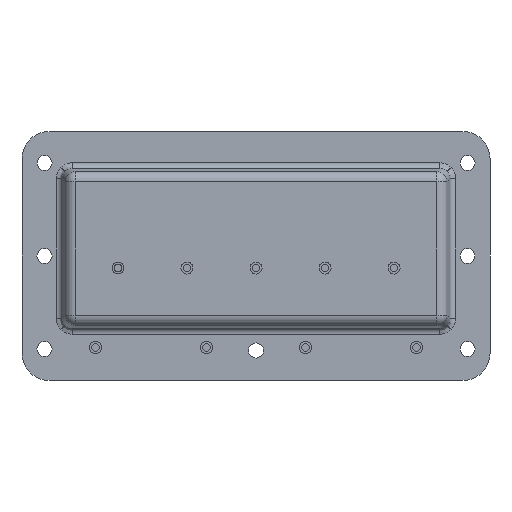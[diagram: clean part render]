
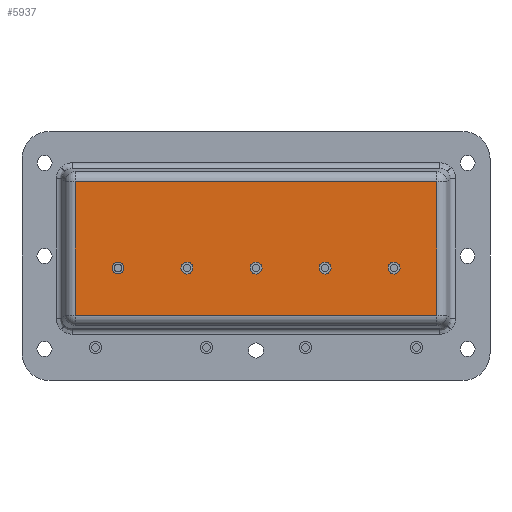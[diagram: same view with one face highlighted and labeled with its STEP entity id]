
A CAD part, front view. The second image highlights one B-rep face of the part: STEP entity #5937.
In plain terms, the highlighted planar face has unit normal (0, -1, 0).
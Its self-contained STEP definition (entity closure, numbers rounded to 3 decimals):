
#15 = DIRECTION ( 'NONE',  ( 0., 0., -1. ) ) ;
#32 = AXIS2_PLACEMENT_3D ( 'NONE', #5827, #312, #6747 ) ;
#203 = CARTESIAN_POINT ( 'NONE',  ( 46., -8., -4. ) ) ;
#262 = EDGE_CURVE ( 'NONE', #11695, #417, #6478, .T. ) ;
#312 = DIRECTION ( 'NONE',  ( 0., -1., 0. ) ) ;
#417 = VERTEX_POINT ( 'NONE', #4414 ) ;
#501 = CARTESIAN_POINT ( 'NONE',  ( -60.267, -8., 0. ) ) ;
#561 = VERTEX_POINT ( 'NONE', #4456 ) ;
#582 = DIRECTION ( 'NONE',  ( 0., 0., -1. ) ) ;
#593 = AXIS2_PLACEMENT_3D ( 'NONE', #203, #6638, #1124 ) ;
#651 = ORIENTED_EDGE ( 'NONE', *, *, #8531, .F. ) ;
#810 = CARTESIAN_POINT ( 'NONE',  ( 0., -8., -4. ) ) ;
#843 = CIRCLE ( 'NONE', #9642, 1.75 ) ;
#980 = VERTEX_POINT ( 'NONE', #10539 ) ;
#1022 = VERTEX_POINT ( 'NONE', #8109 ) ;
#1065 = VERTEX_POINT ( 'NONE', #5954 ) ;
#1124 = DIRECTION ( 'NONE',  ( 0., 0., -1. ) ) ;
#1332 = CIRCLE ( 'NONE', #2060, 1.75 ) ;
#1395 = LINE ( 'NONE', #9465, #11127 ) ;
#1419 = VECTOR ( 'NONE', #1680, 1000. ) ;
#1519 = EDGE_LOOP ( 'NONE', ( #651, #4855 ) ) ;
#1619 = CARTESIAN_POINT ( 'NONE',  ( 23., -8., -2.25 ) ) ;
#1680 = DIRECTION ( 'NONE',  ( -1., 0., 0. ) ) ;
#1729 = DIRECTION ( 'NONE',  ( 0., 0., -1. ) ) ;
#1809 = CARTESIAN_POINT ( 'NONE',  ( 0., -8., 0. ) ) ;
#1903 = AXIS2_PLACEMENT_3D ( 'NONE', #10932, #5502, #2780 ) ;
#1950 = VERTEX_POINT ( 'NONE', #7211 ) ;
#2017 = FACE_BOUND ( 'NONE', #10003, .T. ) ;
#2038 = EDGE_CURVE ( 'NONE', #11214, #1022, #6170, .T. ) ;
#2060 = AXIS2_PLACEMENT_3D ( 'NONE', #3536, #9942, #4465 ) ;
#2126 = DIRECTION ( 'NONE',  ( 0., -1., 0. ) ) ;
#2214 = CARTESIAN_POINT ( 'NONE',  ( 46., -8., -2.25 ) ) ;
#2226 = CARTESIAN_POINT ( 'NONE',  ( -46., -8., -2.25 ) ) ;
#2256 = EDGE_CURVE ( 'NONE', #417, #8613, #1395, .T. ) ;
#2692 = VERTEX_POINT ( 'NONE', #11218 ) ;
#2758 = DIRECTION ( 'NONE',  ( 0., 0., -1. ) ) ;
#2780 = DIRECTION ( 'NONE',  ( 0., 0., -1. ) ) ;
#2803 = VERTEX_POINT ( 'NONE', #2226 ) ;
#2901 = CARTESIAN_POINT ( 'NONE',  ( -23., -8., -5.75 ) ) ;
#2999 = AXIS2_PLACEMENT_3D ( 'NONE', #10946, #5512, #15 ) ;
#3058 = DIRECTION ( 'NONE',  ( 0., 0., 1. ) ) ;
#3277 = VERTEX_POINT ( 'NONE', #2214 ) ;
#3535 = AXIS2_PLACEMENT_3D ( 'NONE', #10065, #4611, #10969 ) ;
#3536 = CARTESIAN_POINT ( 'NONE',  ( -23., -8., -4. ) ) ;
#3558 = LINE ( 'NONE', #501, #4130 ) ;
#3566 = ORIENTED_EDGE ( 'NONE', *, *, #8127, .F. ) ;
#3929 = CIRCLE ( 'NONE', #9303, 1.75 ) ;
#4034 = VECTOR ( 'NONE', #6551, 1000. ) ;
#4124 = EDGE_CURVE ( 'NONE', #3277, #980, #5105, .T. ) ;
#4130 = VECTOR ( 'NONE', #582, 1000. ) ;
#4242 = EDGE_CURVE ( 'NONE', #2803, #1065, #3929, .T. ) ;
#4273 = VERTEX_POINT ( 'NONE', #2901 ) ;
#4414 = CARTESIAN_POINT ( 'NONE',  ( 60.267, -8., -19.767 ) ) ;
#4456 = CARTESIAN_POINT ( 'NONE',  ( 0., -8., -2.25 ) ) ;
#4465 = DIRECTION ( 'NONE',  ( 0., 0., -1. ) ) ;
#4487 = FACE_BOUND ( 'NONE', #1519, .T. ) ;
#4611 = DIRECTION ( 'NONE',  ( 0., -1., 0. ) ) ;
#4632 = DIRECTION ( 'NONE',  ( 0., -1., 0. ) ) ;
#4634 = EDGE_CURVE ( 'NONE', #4273, #1950, #1332, .T. ) ;
#4772 = DIRECTION ( 'NONE',  ( 0., -1., 0. ) ) ;
#4790 = FACE_BOUND ( 'NONE', #10570, .T. ) ;
#4799 = EDGE_CURVE ( 'NONE', #1065, #2803, #9363, .T. ) ;
#4855 = ORIENTED_EDGE ( 'NONE', *, *, #4634, .F. ) ;
#5012 = ORIENTED_EDGE ( 'NONE', *, *, #9432, .F. ) ;
#5105 = CIRCLE ( 'NONE', #1903, 1.75 ) ;
#5115 = ORIENTED_EDGE ( 'NONE', *, *, #262, .T. ) ;
#5265 = CARTESIAN_POINT ( 'NONE',  ( -60.267, -8., -19.767 ) ) ;
#5339 = CARTESIAN_POINT ( 'NONE',  ( 0., -8., 24.767 ) ) ;
#5502 = DIRECTION ( 'NONE',  ( 0., -1., 0. ) ) ;
#5507 = VERTEX_POINT ( 'NONE', #10507 ) ;
#5512 = DIRECTION ( 'NONE',  ( 0., -1., 0. ) ) ;
#5575 = ORIENTED_EDGE ( 'NONE', *, *, #10605, .T. ) ;
#5827 = CARTESIAN_POINT ( 'NONE',  ( -46., -8., -4. ) ) ;
#5862 = EDGE_LOOP ( 'NONE', ( #8902, #3566 ) ) ;
#5871 = ORIENTED_EDGE ( 'NONE', *, *, #10202, .F. ) ;
#5902 = ORIENTED_EDGE ( 'NONE', *, *, #4124, .F. ) ;
#5937 = ADVANCED_FACE ( 'NONE', ( #2017, #4790, #9347, #4487, #6934, #11476 ), #9079, .T. ) ;
#5954 = CARTESIAN_POINT ( 'NONE',  ( -46., -8., -5.75 ) ) ;
#6170 = CIRCLE ( 'NONE', #3535, 1.75 ) ;
#6201 = AXIS2_PLACEMENT_3D ( 'NONE', #1809, #10866, #2758 ) ;
#6287 = ORIENTED_EDGE ( 'NONE', *, *, #2038, .F. ) ;
#6330 = LINE ( 'NONE', #5339, #1419 ) ;
#6438 = ORIENTED_EDGE ( 'NONE', *, *, #4799, .F. ) ;
#6478 = LINE ( 'NONE', #6511, #4034 ) ;
#6494 = ORIENTED_EDGE ( 'NONE', *, *, #4242, .F. ) ;
#6511 = CARTESIAN_POINT ( 'NONE',  ( 0., -8., -19.767 ) ) ;
#6551 = DIRECTION ( 'NONE',  ( 1., 0., 0. ) ) ;
#6638 = DIRECTION ( 'NONE',  ( 0., -1., 0. ) ) ;
#6747 = DIRECTION ( 'NONE',  ( 0., 0., -1. ) ) ;
#6934 = FACE_BOUND ( 'NONE', #11696, .T. ) ;
#7211 = CARTESIAN_POINT ( 'NONE',  ( -23., -8., -2.25 ) ) ;
#7251 = DIRECTION ( 'NONE',  ( 0., -1., 0. ) ) ;
#7644 = CARTESIAN_POINT ( 'NONE',  ( 0., -8., -4. ) ) ;
#7979 = AXIS2_PLACEMENT_3D ( 'NONE', #10088, #4632, #11000 ) ;
#8032 = EDGE_CURVE ( 'NONE', #8613, #5507, #6330, .T. ) ;
#8109 = CARTESIAN_POINT ( 'NONE',  ( 23., -8., -5.75 ) ) ;
#8127 = EDGE_CURVE ( 'NONE', #2692, #561, #843, .T. ) ;
#8531 = EDGE_CURVE ( 'NONE', #1950, #4273, #11597, .T. ) ;
#8553 = DIRECTION ( 'NONE',  ( 0., 0., -1. ) ) ;
#8613 = VERTEX_POINT ( 'NONE', #10183 ) ;
#8902 = ORIENTED_EDGE ( 'NONE', *, *, #10719, .F. ) ;
#9079 = PLANE ( 'NONE',  #6201 ) ;
#9292 = AXIS2_PLACEMENT_3D ( 'NONE', #810, #7251, #1729 ) ;
#9303 = AXIS2_PLACEMENT_3D ( 'NONE', #10220, #4772, #11124 ) ;
#9347 = FACE_BOUND ( 'NONE', #5862, .T. ) ;
#9363 = CIRCLE ( 'NONE', #32, 1.75 ) ;
#9432 = EDGE_CURVE ( 'NONE', #980, #3277, #11141, .T. ) ;
#9465 = CARTESIAN_POINT ( 'NONE',  ( 60.267, -8., 0. ) ) ;
#9642 = AXIS2_PLACEMENT_3D ( 'NONE', #7644, #2126, #8553 ) ;
#9887 = ORIENTED_EDGE ( 'NONE', *, *, #2256, .T. ) ;
#9942 = DIRECTION ( 'NONE',  ( 0., -1., 0. ) ) ;
#10003 = EDGE_LOOP ( 'NONE', ( #5902, #5012 ) ) ;
#10065 = CARTESIAN_POINT ( 'NONE',  ( 23., -8., -4. ) ) ;
#10088 = CARTESIAN_POINT ( 'NONE',  ( -23., -8., -4. ) ) ;
#10183 = CARTESIAN_POINT ( 'NONE',  ( 60.267, -8., 24.767 ) ) ;
#10202 = EDGE_CURVE ( 'NONE', #1022, #11214, #11559, .T. ) ;
#10220 = CARTESIAN_POINT ( 'NONE',  ( -46., -8., -4. ) ) ;
#10507 = CARTESIAN_POINT ( 'NONE',  ( -60.267, -8., 24.767 ) ) ;
#10539 = CARTESIAN_POINT ( 'NONE',  ( 46., -8., -5.75 ) ) ;
#10570 = EDGE_LOOP ( 'NONE', ( #6287, #5871 ) ) ;
#10605 = EDGE_CURVE ( 'NONE', #5507, #11695, #3558, .T. ) ;
#10719 = EDGE_CURVE ( 'NONE', #561, #2692, #11826, .T. ) ;
#10843 = EDGE_LOOP ( 'NONE', ( #11578, #5575, #5115, #9887 ) ) ;
#10866 = DIRECTION ( 'NONE',  ( 0., -1., 0. ) ) ;
#10932 = CARTESIAN_POINT ( 'NONE',  ( 46., -8., -4. ) ) ;
#10946 = CARTESIAN_POINT ( 'NONE',  ( 23., -8., -4. ) ) ;
#10969 = DIRECTION ( 'NONE',  ( 0., 0., -1. ) ) ;
#11000 = DIRECTION ( 'NONE',  ( 0., 0., -1. ) ) ;
#11124 = DIRECTION ( 'NONE',  ( 0., 0., -1. ) ) ;
#11127 = VECTOR ( 'NONE', #3058, 1000. ) ;
#11141 = CIRCLE ( 'NONE', #593, 1.75 ) ;
#11214 = VERTEX_POINT ( 'NONE', #1619 ) ;
#11218 = CARTESIAN_POINT ( 'NONE',  ( 0., -8., -5.75 ) ) ;
#11476 = FACE_OUTER_BOUND ( 'NONE', #10843, .T. ) ;
#11559 = CIRCLE ( 'NONE', #2999, 1.75 ) ;
#11578 = ORIENTED_EDGE ( 'NONE', *, *, #8032, .T. ) ;
#11597 = CIRCLE ( 'NONE', #7979, 1.75 ) ;
#11695 = VERTEX_POINT ( 'NONE', #5265 ) ;
#11696 = EDGE_LOOP ( 'NONE', ( #6494, #6438 ) ) ;
#11826 = CIRCLE ( 'NONE', #9292, 1.75 ) ;
